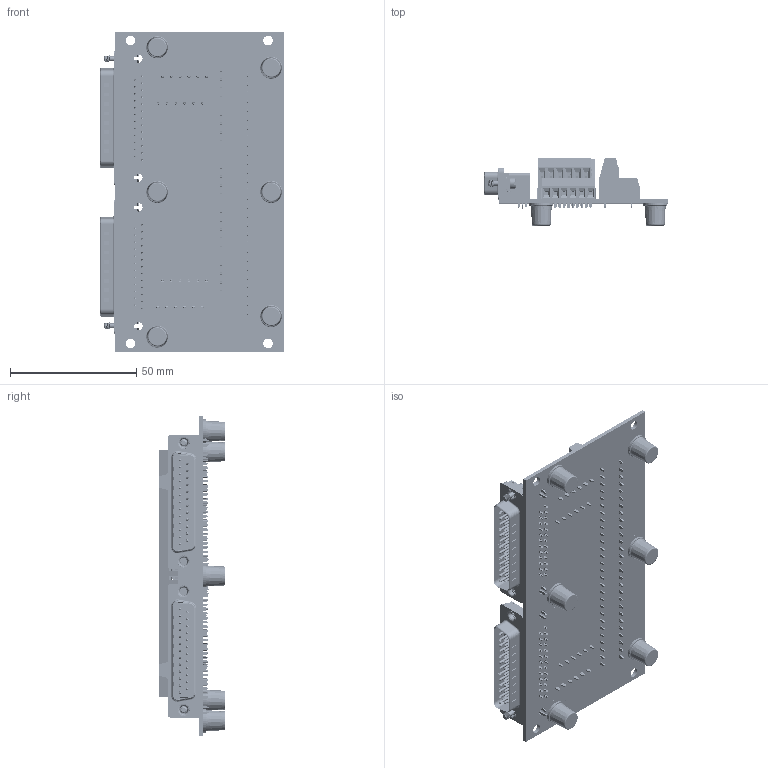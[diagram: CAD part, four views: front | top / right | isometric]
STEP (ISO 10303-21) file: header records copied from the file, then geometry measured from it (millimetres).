
FILE_DESCRIPTION (( 'STEP AP214' ), '1' );
FILE_NAME ('brkw01-c_rev_a.step', '2021-08-31T16:48:56', ( '' ), ( '' ), 'SwSTEP 2.0', 'SolidWorks 2018', '' );
FILE_SCHEMA (( 'AUTOMOTIVE_DESIGN' ));
Length unit declared in the file: inch
Products named in the file (7): 0.375 Black Foot (Tall); Screw Terminal Double Decker 6; DB25 Male Connector Captive Screw left; BRKW01_PCB; Screw Terminal Double Decker 4; brkw01-c_rev_a; DB25 Male Connector Captive Screw right
Assembly tree (23 placements, depth 2):
  brkw01-c_rev_a
    BRKW01_PCB
    Screw Terminal Double Decker 6  x12
    Screw Terminal Double Decker 4  x2
    0.375 Black Foot (Tall)  x6
    DB25 Male Connector Captive Screw left
    DB25 Male Connector Captive Screw right
Bounding box: 73.04 x 26.56 x 127 mm (x, y, z)
Volume: 32061.3 mm3; surface area: 89593.9 mm2
Topology: 205 solids, 571 shells, 33240 faces, 84993 edges, 53148 vertices
Faces by surface type: plane 15811, cylinder 7874, bspline 7699, torus 1092, cone 764
Entity records: 1156377 total; most frequent: CARTESIAN_POINT 489559, ORIENTED_EDGE 96342, DIRECTION 67485, EDGE_CURVE 48397, VERTEX_POINT 30636, VECTOR 28433, LINE 28433, EDGE_LOOP 20331
